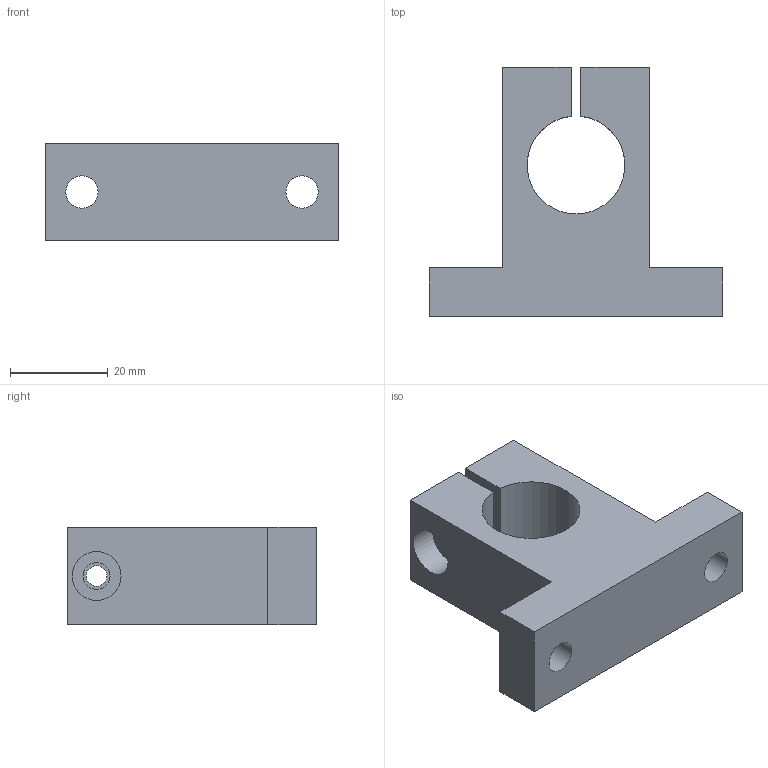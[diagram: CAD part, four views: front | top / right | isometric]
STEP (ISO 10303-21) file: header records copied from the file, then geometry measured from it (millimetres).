
FILE_DESCRIPTION(/* description */ ('Unknown'),/* implementation_level */ '2;1');
FILE_NAME(/* name */ 'SK20',/* time_stamp */ '2025-02-04T08:46:20+08:00',/* author */ ('Unknown'),/* organization */ ('Unknown'),/* preprocessor_version */ 'ST-DEVELOPER v18.102',/* originating_system */ 'Solid Edge',/* authorisation */ 'Unknown');
FILE_SCHEMA (('AUTOMOTIVE_DESIGN {1 0 10303 214 3 1 1}'));
Length unit declared in the file: millimetre
Products named in the file (1): SK20
Bounding box: 60 x 51 x 20 mm (x, y, z)
Volume: 28404 mm3; surface area: 9717.2 mm2
Topology: 1 solids, 1 shells, 20 faces, 51 edges, 34 vertices
Faces by surface type: plane 14, cylinder 6
Full cylindrical faces by diameter (mm): 4.2 x1, 5.5 x1, 6.6 x2, 10 x1
Entity records: 628 total; most frequent: CARTESIAN_POINT 101, DIRECTION 100, ORIENTED_EDGE 92, EDGE_CURVE 46, VERTEX_POINT 34, LINE 34, VECTOR 34, EDGE_LOOP 34
